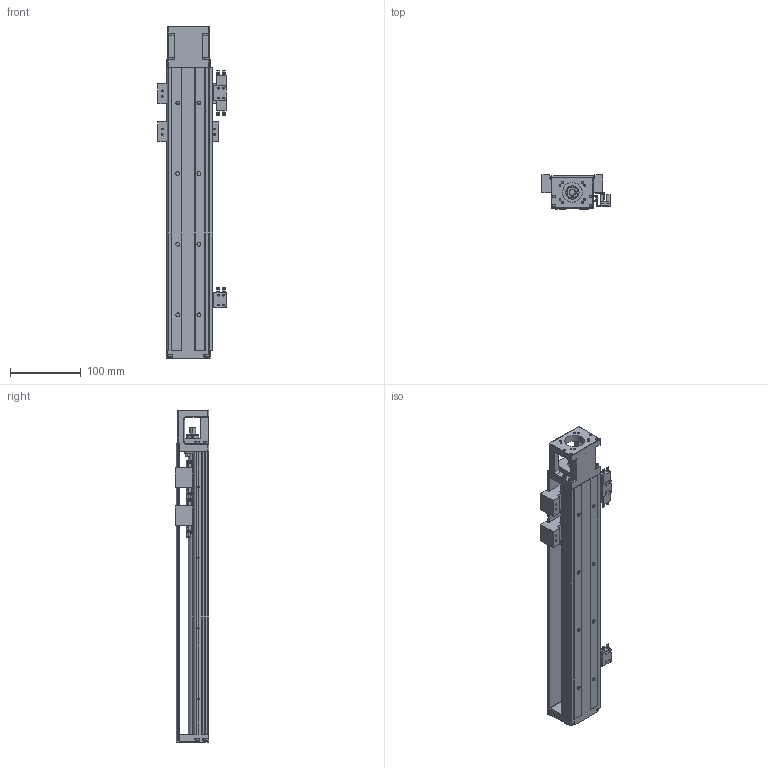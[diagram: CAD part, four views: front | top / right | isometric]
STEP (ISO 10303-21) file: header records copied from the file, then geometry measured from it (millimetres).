
FILE_DESCRIPTION (( 'STEP AP214' ), '1' );
FILE_NAME ('SFKK60-400S2-F0C.STEP', '2023-02-17T01:54:06', ( '微软用户' ), ( '微软中国' ), 'SwSTEP 2.0', 'SolidWorks 2018', '' );
FILE_SCHEMA (( 'AUTOMOTIVE_DESIGN' ));
Length unit declared in the file: millimetre
Products named in the file (9): 带盖挡光片：KK-60-S2-D1; 开关固定座：KK-674S2-F; 极限轨道与开关固定座组合_400; SFKK-60-CU_400; SFKK60-400S2-F0C; SX674嫖萇羲壽; SFKK60-F0_400; SFKK60C-S1-C; SFKK60-LR 憤癹寢耋_400
Assembly tree (12 placements, depth 3):
  SFKK60-400S2-F0C
    SFKK60-F0_400
    SFKK60C-S1-C  x2
    极限轨道与开关固定座组合_400
      SFKK60-LR 憤癹寢耋_400
      开关固定座：KK-674S2-F  x2
    SX674嫖萇羲壽  x3
    SFKK-60-CU_400
    带盖挡光片：KK-60-S2-D1
Bounding box: 96.4 x 48 x 470 mm (x, y, z)
Volume: 632644.3 mm3; surface area: 271099.9 mm2
Topology: 54 solids, 64 shells, 2582 faces, 6784 edges, 4391 vertices
Faces by surface type: plane 1369, cylinder 927, cone 160, torus 63, bspline 40, sphere 23
Entity records: 71437 total; most frequent: CARTESIAN_POINT 17847, DIRECTION 8776, ORIENTED_EDGE 8504, EDGE_CURVE 4252, AXIS2_PLACEMENT_3D 3072, VERTEX_POINT 2759, VECTOR 2632, LINE 2632
